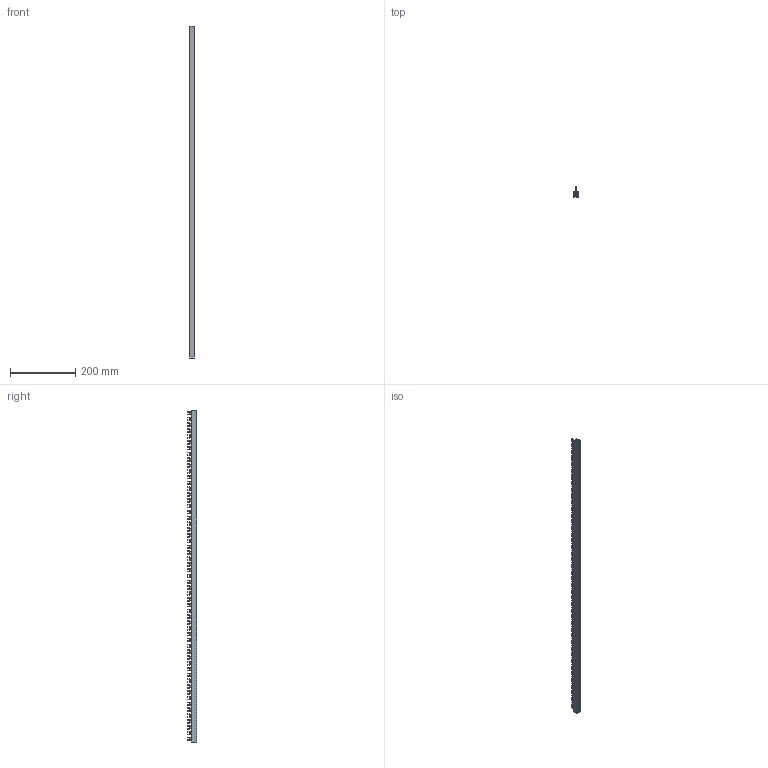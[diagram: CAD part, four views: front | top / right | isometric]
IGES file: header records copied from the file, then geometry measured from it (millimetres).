
Start section: SolidWorks IGES file using analytic representation for surfaces
Global section: file name: U:\14_RD\05_Technical_office\04_Office\Hrdinova\3D modely - IGES\Minia\G3L-1000-16C.IGS; native system: SolidWorks 2011; preprocessor: SolidWorks 2011; author: adhrja3; date: 170615.074325; units: millimetre
Bounding box: 14.9 x 30 x 1016 mm (x, y, z)
Surface area: 276934.5 mm2 (no closed solid volume)
Topology: 0 solids, 0 shells, 1446 faces, 16164 edges, 16164 vertices
Faces by surface type: revolution 801, bspline 645
